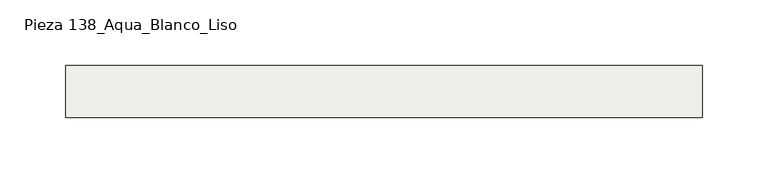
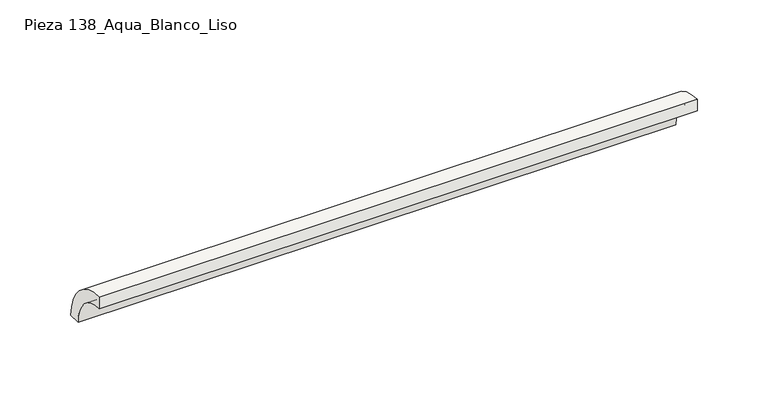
"""IFC4 building model written with IfcOpenShell, lengths in millimetres: slab geometry, ROSA GRES_138 : Pieza 138_Aqua_Blanco_Liso."""

from ifc_helpers import new_model, si_unit, point, frame, frame_2d, origin, origin_2d, place, context, project, spatial, polyline, circle_curve, trimmed, segment, composite_curve, outline, extrude, source, transform, mapped, element, save


def pieza_138_aqua_blanco_liso_beca3772(model_context):
    return source(origin(), model_context, "Body", "SweptSolid", [
        extrude(outline(composite_curve([segment(trimmed(circle_curve(origin_2d(), 40.0), [point((0.0, 40.0))], [point((40.0, 0.0))], False, "CARTESIAN"), True, "CONTINUOUS"), segment(polyline([(40.0, 0.0), (30.0265886, 0.0)]), True, "CONTINUOUS"), segment(trimmed(circle_curve(frame_2d((0.0044453, 0.0044453)), 30.0221435), [point((30.0265886, 0.0))], [point((0.0, 30.0265886))], True, "CARTESIAN"), True, "CONTINUOUS"), segment(polyline([(0.0, 30.0265886), (0.0, 40.0)]), True, "CONTINUOUS")], self_intersect=False)), frame((0.0, 0.0, 0.0), z_axis=(1.0, 0.0, 0.0), x_axis=(0.0, 1.0, 0.0)), (0.0, 0.0, 1.0), 486.0),
    ])


if __name__ == "__main__":
    model = new_model("IFC4")
    model_context = context("Model", 3, world=origin())
    ifc_project = project(units=[si_unit("LENGTHUNIT", "METRE", prefix="MILLI")], contexts=[model_context])
    site = spatial("IfcSite", under=ifc_project)
    building = spatial("IfcBuilding", under=site)
    placement = place(None, origin())
    pieza_138_aqua_blanco_liso_shape = pieza_138_aqua_blanco_liso_beca3772(model_context)
    element("IfcSlab", 1, ObjectType="ROSA GRES_138 : Pieza 138_Aqua_Blanco_Liso", at=placement, inside=building, context=model_context, shape_type="MappedRepresentation", body=[
        mapped(pieza_138_aqua_blanco_liso_shape, transform((0.0, 0.0, 0.0), x_axis=(1.0, 0.0, 0.0), y_axis=(0.0, 1.0, 0.0), z_axis=(0.0, 0.0, 1.0))),
    ])
    save(model, "model.ifc")
